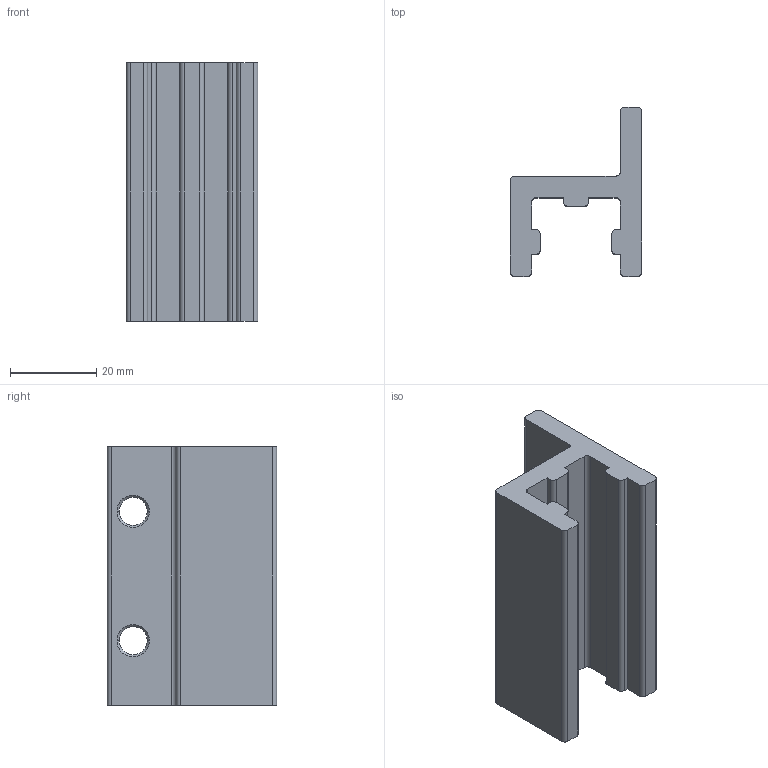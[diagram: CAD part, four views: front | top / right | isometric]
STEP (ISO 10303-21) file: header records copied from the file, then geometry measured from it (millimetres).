
FILE_DESCRIPTION (( 'STEP AP214' ), '1' );
FILE_NAME ('S-2S-SF-2020.STEP', '2023-05-30T07:15:29', ( '' ), ( '' ), 'SwSTEP 2.0', 'SolidWorks 2022', '' );
FILE_SCHEMA (( 'AUTOMOTIVE_DESIGN' ));
Length unit declared in the file: millimetre
Products named in the file (1): S-2S-SF-2020
Bounding box: 30.6 x 39.3 x 60 mm (x, y, z)
Volume: 26540.7 mm3; surface area: 11836.9 mm2
Topology: 1 solids, 1 shells, 52 faces, 146 edges, 96 vertices
Faces by surface type: plane 24, cylinder 20, cone 8
Entity records: 1732 total; most frequent: DIRECTION 304, CARTESIAN_POINT 295, ORIENTED_EDGE 292, EDGE_CURVE 146, AXIS2_PLACEMENT_3D 105, VERTEX_POINT 96, VECTOR 94, LINE 94
